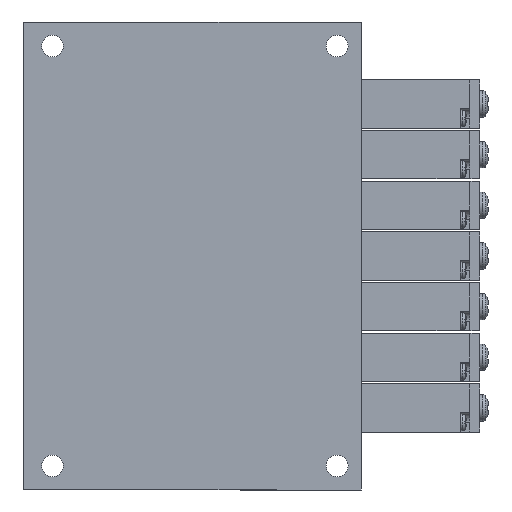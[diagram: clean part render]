
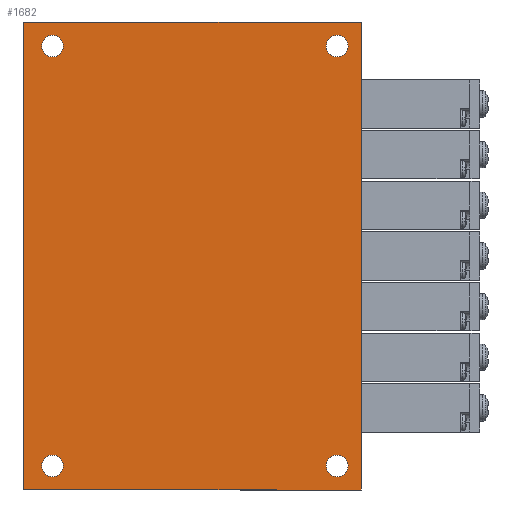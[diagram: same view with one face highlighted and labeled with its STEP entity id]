
A CAD part, front view. The second image highlights one B-rep face of the part: STEP entity #1682.
In plain terms, the highlighted planar face has unit normal (0, -1, 0) as drawn and (0, 0, 1) by its records, which use the part's own axes.
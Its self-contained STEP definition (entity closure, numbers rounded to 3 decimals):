
#1682=ADVANCED_FACE('',(#3649,#3650,#3651,#3652,#3653),#3654,.T.);
#3649=FACE_BOUND('',#6140,.T.);
#3650=FACE_BOUND('',#6141,.T.);
#3651=FACE_BOUND('',#6142,.T.);
#3652=FACE_BOUND('',#6143,.T.);
#3653=FACE_OUTER_BOUND('',#6144,.T.);
#3654=PLANE('',#6145);
#6140=EDGE_LOOP('',(#12554));
#6141=EDGE_LOOP('',(#12555));
#6142=EDGE_LOOP('',(#12556));
#6143=EDGE_LOOP('',(#12557));
#6144=EDGE_LOOP('',(#12558,#12559,#12560,#12561));
#6145=AXIS2_PLACEMENT_3D('',#12562,#12563,#12564);
#12554=ORIENTED_EDGE('',*,*,#17525,.F.);
#12555=ORIENTED_EDGE('',*,*,#17526,.T.);
#12556=ORIENTED_EDGE('',*,*,#17510,.F.);
#12557=ORIENTED_EDGE('',*,*,#17508,.T.);
#12558=ORIENTED_EDGE('',*,*,#17527,.T.);
#12559=ORIENTED_EDGE('',*,*,#17528,.T.);
#12560=ORIENTED_EDGE('',*,*,#17523,.T.);
#12561=ORIENTED_EDGE('',*,*,#17529,.T.);
#12562=CARTESIAN_POINT('',(-48.5,-35.0,25.889));
#12563=DIRECTION('',(0.0,0.0,1.0));
#12564=DIRECTION('',(1.0,0.0,0.0));
#17508=EDGE_CURVE('',#21397,#21397,#21398,.T.);
#17510=EDGE_CURVE('',#21401,#21401,#21402,.T.);
#17523=EDGE_CURVE('',#21427,#21425,#21428,.T.);
#17525=EDGE_CURVE('',#21430,#21430,#21431,.T.);
#17526=EDGE_CURVE('',#21432,#21432,#21433,.T.);
#17527=EDGE_CURVE('',#21434,#21435,#21436,.T.);
#17528=EDGE_CURVE('',#21435,#21427,#21437,.T.);
#17529=EDGE_CURVE('',#21425,#21434,#21438,.T.);
#21397=VERTEX_POINT('',#27896);
#21398=CIRCLE('',#27897,2.25);
#21401=VERTEX_POINT('',#27900);
#21402=CIRCLE('',#27901,2.25);
#21425=VERTEX_POINT('',#27928);
#21427=VERTEX_POINT('',#27931);
#21428=LINE('',#27932,#27933);
#21430=VERTEX_POINT('',#27936);
#21431=CIRCLE('',#27937,2.25);
#21432=VERTEX_POINT('',#27938);
#21433=CIRCLE('',#27939,2.25);
#21434=VERTEX_POINT('',#27940);
#21435=VERTEX_POINT('',#27941);
#21436=LINE('',#27942,#27943);
#21437=LINE('',#27944,#27945);
#21438=LINE('',#27946,#27947);
#27896=CARTESIAN_POINT('',(-45.75,-29.0,25.889));
#27897=AXIS2_PLACEMENT_3D('',#33043,#33044,#33045);
#27900=CARTESIAN_POINT('',(45.75,-29.0,25.889));
#27901=AXIS2_PLACEMENT_3D('',#33049,#33050,#33051);
#27928=CARTESIAN_POINT('',(48.5,35.0,25.889));
#27931=CARTESIAN_POINT('',(48.5,-35.0,25.889));
#27932=CARTESIAN_POINT('',(48.5,-35.0,25.889));
#27933=VECTOR('',#33078,1.0);
#27936=CARTESIAN_POINT('',(45.75,30.0,25.889));
#27937=AXIS2_PLACEMENT_3D('',#33080,#33081,#33082);
#27938=CARTESIAN_POINT('',(-45.75,30.0,25.889));
#27939=AXIS2_PLACEMENT_3D('',#33083,#33084,#33085);
#27940=CARTESIAN_POINT('',(-48.5,35.0,25.889));
#27941=CARTESIAN_POINT('',(-48.5,-35.0,25.889));
#27942=CARTESIAN_POINT('',(-48.5,35.0,25.889));
#27943=VECTOR('',#33086,1.0);
#27944=CARTESIAN_POINT('',(-48.5,-35.0,25.889));
#27945=VECTOR('',#33087,1.0);
#27946=CARTESIAN_POINT('',(48.5,35.0,25.889));
#27947=VECTOR('',#33088,1.0);
#33043=CARTESIAN_POINT('',(-43.5,-29.0,25.889));
#33044=DIRECTION('',(0.0,0.0,-1.0));
#33045=DIRECTION('',(-1.0,0.0,0.0));
#33049=CARTESIAN_POINT('',(43.5,-29.0,25.889));
#33050=DIRECTION('',(0.0,0.0,1.0));
#33051=DIRECTION('',(1.0,0.0,0.0));
#33078=DIRECTION('',(0.0,1.0,0.0));
#33080=CARTESIAN_POINT('',(43.5,30.0,25.889));
#33081=DIRECTION('',(0.0,0.0,1.0));
#33082=DIRECTION('',(1.0,0.0,0.0));
#33083=CARTESIAN_POINT('',(-43.5,30.0,25.889));
#33084=DIRECTION('',(0.0,0.0,-1.0));
#33085=DIRECTION('',(-1.0,0.0,0.0));
#33086=DIRECTION('',(0.0,-1.0,0.0));
#33087=DIRECTION('',(1.0,0.0,0.0));
#33088=DIRECTION('',(-1.0,0.0,0.0));
